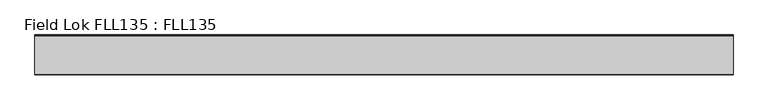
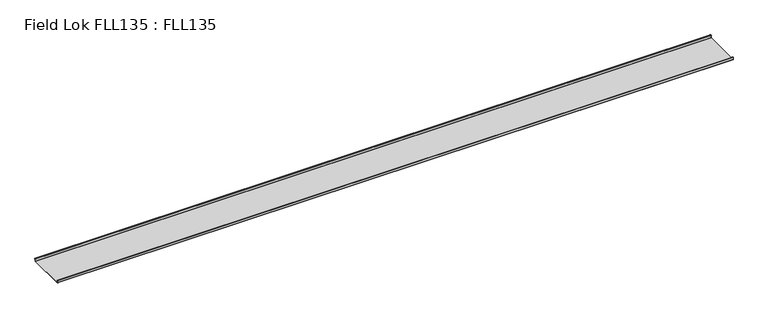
"""IFC4 building model written with IfcOpenShell, lengths in millimetres: proxy geometry, Field Lok FLL135 : FLL135."""

from ifc_helpers import new_model, si_unit, point, frame, frame_2d, origin, place, context, project, spatial, polyline, circle_curve, trimmed, segment, composite_curve, outline, extrude, source, transform, mapped, element, save


def field_lok_fll135_fll135_bba9566f(model_context):
    return source(origin(), model_context, "Body", "SweptSolid", [
        extrude(outline(composite_curve([segment(polyline([(290.9221347, 158.0493838), (-49.7626442, 158.0493838)]), True, "CONTINUOUS"), segment(trimmed(circle_curve(frame_2d((-49.7626442, 159.3020707)), 1.2526869), [point((-49.7626442, 158.0493838))], [point((-51.0153311, 159.3020707))], False, "CARTESIAN"), True, "CONTINUOUS"), segment(polyline([(-51.0153311, 159.3020707), (-51.0153311, 180.1712732)]), True, "CONTINUOUS"), segment(trimmed(circle_curve(frame_2d((-49.7626442, 180.1712732)), 1.2526869), [point((-51.0153311, 180.1712732))], [point((-48.5099574, 180.1712732))], False, "CARTESIAN"), True, "CONTINUOUS"), segment(polyline([(-48.5099574, 180.1712732), (-48.5099574, 174.7494877), (-50.3889877, 174.7494877), (-50.3889877, 159.3020707)]), True, "CONTINUOUS"), segment(trimmed(circle_curve(frame_2d((-49.7626442, 159.3020707)), 0.6263434), [point((-50.3889877, 159.3020707))], [point((-49.7626442, 158.6757273))], True, "CARTESIAN"), True, "CONTINUOUS"), segment(polyline([(-49.7626442, 158.6757273), (290.9221347, 158.6757273)]), True, "CONTINUOUS"), segment(trimmed(circle_curve(frame_2d((290.9221347, 159.3020707)), 0.6263434), [point((290.9221347, 158.6757273))], [point((291.4497722, 159.6395686))], True, "CARTESIAN"), True, "CONTINUOUS"), segment(polyline([(291.4497722, 159.6395686), (292.2120266, 181.4676782)]), True, "CONTINUOUS"), segment(trimmed(circle_curve(frame_2d((293.4639504, 181.4239601)), 1.2526869), [point((292.2120266, 181.4676782))], [point((293.4639504, 182.6766469))], False, "CARTESIAN"), True, "CONTINUOUS"), segment(polyline([(293.4639504, 182.6766469), (296.5104642, 182.6766469)]), True, "CONTINUOUS"), segment(trimmed(circle_curve(frame_2d((296.5104642, 181.4239601)), 1.2526869), [point((296.5104642, 182.6766469))], [point((297.7631511, 181.4239601))], False, "CARTESIAN"), True, "CONTINUOUS"), segment(polyline([(297.7631511, 181.4239601), (297.7631511, 174.9256468)]), True, "CONTINUOUS"), segment(trimmed(circle_curve(frame_2d((296.3245184, 174.9256468)), 1.4386326), [point((297.7631511, 174.9256468))], [point((294.8858858, 174.9256468))], False, "CARTESIAN"), True, "CONTINUOUS"), segment(polyline([(294.8858858, 174.9256468), (294.8858858, 178.3509625), (297.1368076, 178.3509625), (297.1368076, 181.4239601)]), True, "CONTINUOUS"), segment(trimmed(circle_curve(frame_2d((296.5104642, 181.4239601)), 0.6263434), [point((297.1368076, 181.4239601))], [point((296.5104642, 182.0503035))], True, "CARTESIAN"), True, "CONTINUOUS"), segment(polyline([(296.5104642, 182.0503035), (293.4639504, 182.0503035)]), True, "CONTINUOUS"), segment(trimmed(circle_curve(frame_2d((293.4639504, 181.4239601)), 0.6263434), [point((293.4639504, 182.0503035))], [point((292.8379885, 181.4458191))], True, "CARTESIAN"), True, "CONTINUOUS"), segment(polyline([(292.8379885, 181.4458191), (292.081297, 159.77701)]), True, "CONTINUOUS"), segment(trimmed(circle_curve(frame_2d((290.9221347, 159.3020707)), 1.2526869), [point((292.081297, 159.77701))], [point((290.9221347, 158.0493838))], False, "CARTESIAN"), True, "CONTINUOUS")], self_intersect=False)), frame((-3048.0, 0.0, 0.0), z_axis=(1.0, 0.0, 0.0), x_axis=(0.0, 1.0, 0.0)), (0.0, 0.0, 1.0), 6096.0),
    ])


if __name__ == "__main__":
    model = new_model("IFC4")
    model_context = context("Model", 3, world=origin())
    ifc_project = project(units=[si_unit("LENGTHUNIT", "METRE", prefix="MILLI")], contexts=[model_context])
    site = spatial("IfcSite", under=ifc_project)
    building = spatial("IfcBuilding", under=site)
    placement = place(None, origin())
    field_lok_fll135_fll135_shape = field_lok_fll135_fll135_bba9566f(model_context)
    element("IfcBuildingElementProxy", 1, Name="Field Lok FLL135 : FLL135", ObjectType="Field Lok FLL135 : FLL135", at=placement, inside=building, context=model_context, shape_type="MappedRepresentation", body=[
        mapped(field_lok_fll135_fll135_shape, transform((0.0, 0.0, 0.0), x_axis=(1.0, 0.0, 0.0), y_axis=(0.0, 1.0, 0.0), z_axis=(0.0, 0.0, 1.0))),
    ])
    save(model, "model.ifc")
